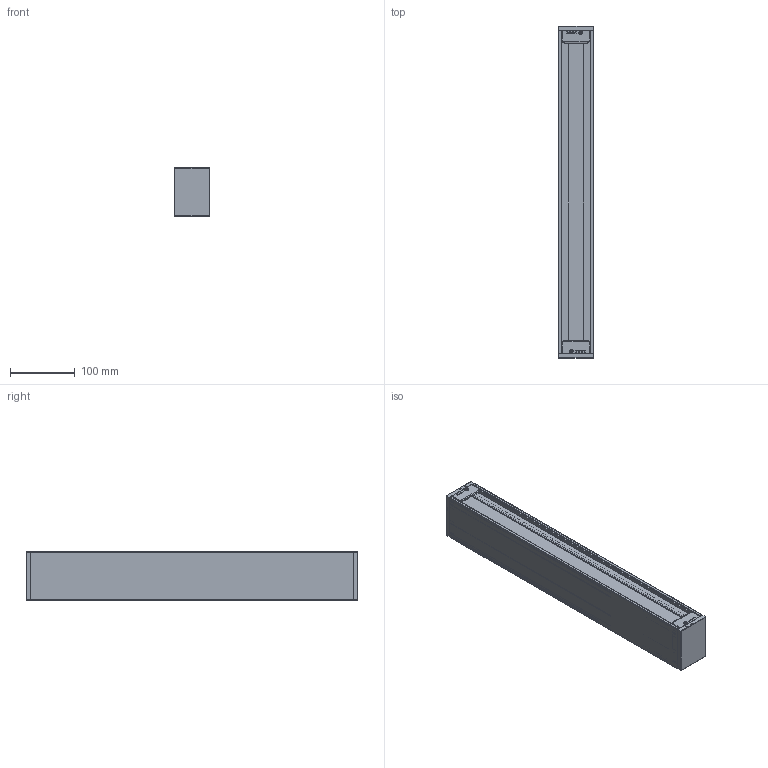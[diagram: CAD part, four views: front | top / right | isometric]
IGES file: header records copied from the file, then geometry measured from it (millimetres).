
Global section: file name: C:\Users\info\Desktop\CRIS\05. NEW PRODUCT\LUMINARIA KISS\3D para web\KISS L50 - IGS.igs; native system: Rhinoceros ( Feb 27 2019 ); preprocessor: Trout Lake IGES 012 Feb 27 2019; date: 260427.140700; units: millimetre
Bounding box: 55 x 513.48 x 75 mm (x, y, z)
Surface area: 464288.8 mm2 (no closed solid volume)
Topology: 0 solids, 0 shells, 2006 faces, 18012 edges, 18006 vertices
Faces by surface type: bspline 2006
